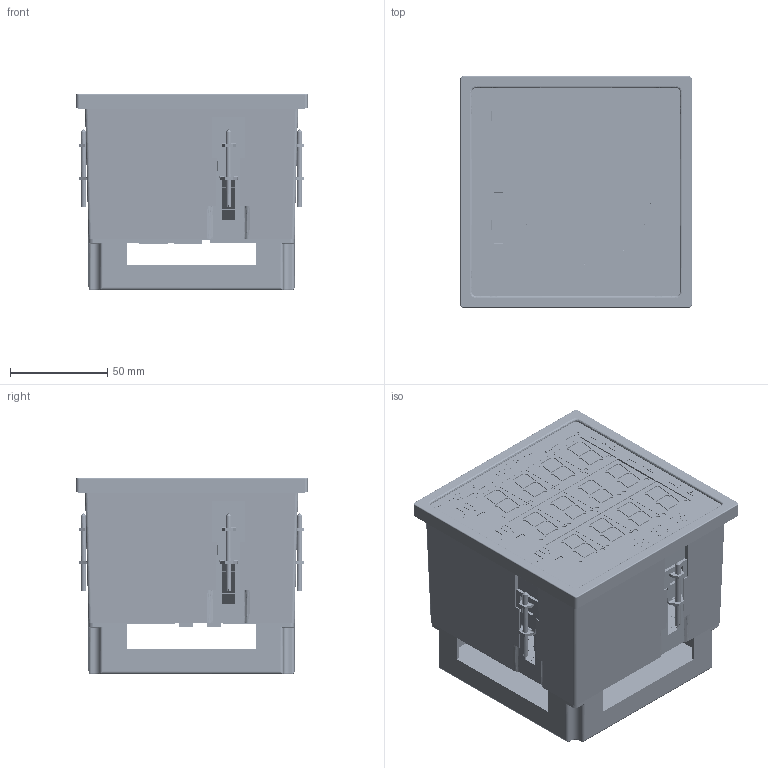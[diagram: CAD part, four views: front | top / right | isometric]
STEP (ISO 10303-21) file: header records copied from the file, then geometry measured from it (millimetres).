
FILE_DESCRIPTION (( 'STEP AP214' ), '1' );
FILE_NAME ('ñ9255tr_120x120x103.STEP', '2025-01-17T07:59:24', ( '' ), ( '' ), 'SwSTEP 2.0', 'SolidWorks 2021', '' );
FILE_SCHEMA (( 'AUTOMOTIVE_DESIGN' ));
Length unit declared in the file: millimetre
Products named in the file (67): 15EDGVC-3.5-sidewall; Êîïèÿ mark-FYS-8011^Êîïèÿ (7) Êîïèÿ indicator-FYS-8011_ÑáîðêàÖ9255ÒÐ_step; DG271R-5.0-2-x; Êîïèÿ 15EDGRC-3.5-06P^ÑáîðêàÖ9255ÒÐ; Êîïèÿ (10) Êîïèÿ indicator-FYS-8011^ÑáîðêàÖ9255ÒÐ_step; Çàäíÿÿ êðûøêà ÖÔ9285; Êîïèÿ 15EDGVC-3.5-sidewall^Êîïèÿ 15EDGRC-3.5-06P_ÑáîðêàÖ9255ÒÐ; Êîïèÿ 15EDGRC-3.5-01P^Êîïèÿ 15EDGRC-3.5-06P_ÑáîðêàÖ9255ÒÐ; blue-led-5_step; 3-input-label^ÑáîðêàÖ9255ÒÐ_step; border_for_body_elc_120x120x103; 櫻蠉錪6^DG271R-5.0-6-x_step; 15EDGRC-3.5-06P; Êîïèÿ mark-FYS-8011^Êîïèÿ Êîïèÿ indicator-FYS-8011_ÑáîðêàÖ9255ÒÐ_step; Êîïèÿ (7) Êîïèÿ indicator-FYS-8011^ÑáîðêàÖ9255ÒÐ_step; Êîïèÿ mark-FYS-8011^Êîïèÿ (11) Êîïèÿ indicator-FYS-8011_ÑáîðêàÖ9255ÒÐ_step; Êîïèÿ green-led-with-border^ÑáîðêàÖ9255ÒÐ_step; Êîïèÿ mark-FYS-8011^Êîïèÿ (8) Êîïèÿ indicator-FYS-8011_ÑáîðêàÖ9255ÒÐ_step; Êîïèÿ (9) Êîïèÿ indicator-FYS-8011^ÑáîðêàÖ9255ÒÐ_step; body_elc_120x120x103_step; Êîïèÿ 15EDGVC-3.5-sidewall^15EDGRC-3.5-04P; 櫻蠉錪2^DG271R-5.0-2-x; green-led-5_step; ñêîáà-2_step; DG271R-body_step; RS-485-label^ﾑ碚獰9255ﾒﾐ_step; 櫻蠉錪2^DG271R-5.0-6-x; Êîïèÿ mark-FYS-8011^Êîïèÿ (12) Êîïèÿ indicator-FYS-8011_ÑáîðêàÖ9255ÒÐ_step; Êîïèÿ (2) Êîïèÿ indicator-FYS-8011^ÑáîðêàÖ9255ÒÐ_step; Êîïèÿ mark-FYS-8011^Êîïèÿ (9) Êîïèÿ indicator-FYS-8011_ÑáîðêàÖ9255ÒÐ_step; 櫻蠉錪6^DG271R-5.0-2-x; Êîïèÿ mark-FYS-8011^Êîïèÿ (4) Êîïèÿ indicator-FYS-8011_ÑáîðêàÖ9255ÒÐ_step; 櫻蠉錪5^DG271R-5.0-2-x; Êîïèÿ orange-led-with-border^ÑáîðêàÖ9255ÒÐ_step; ñ9255tr_120x120x103; Êîïèÿ (8) Êîïèÿ indicator-FYS-8011^ÑáîðêàÖ9255ÒÐ_step; DG271R-body; Êîïèÿ ïåðåäíÿÿ_ïàíåëü^ÑáîðêàÖ9255ÒÐ_step; no-color-led-5; indicator-FYS-8011_step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
Assembly tree (122 placements, depth 3):
  Êîïèÿ mark-FYS-8011^Êîïèÿ (7) Êîïèÿ indicator-FYS-8011_ÑáîðêàÖ9255ÒÐ_step
  櫻蠉錪6^DG271R-5.0-6-x_step
  Êîïèÿ mark-FYS-8011^Êîïèÿ Êîïèÿ indicator-FYS-8011_ÑáîðêàÖ9255ÒÐ_step
  Êîïèÿ mark-FYS-8011^Êîïèÿ (11) Êîïèÿ indicator-FYS-8011_ÑáîðêàÖ9255ÒÐ_step
  Êîïèÿ mark-FYS-8011^Êîïèÿ (8) Êîïèÿ indicator-FYS-8011_ÑáîðêàÖ9255ÒÐ_step
Bounding box: 119 x 119 x 101.11 mm (x, y, z)
Volume: 196774.3 mm3; surface area: 226471 mm2
Topology: 295 solids, 295 shells, 9981 faces, 25679 edges, 16578 vertices
Faces by surface type: plane 6620, cylinder 2099, bspline 1014, cone 152, sphere 84, torus 12
Entity records: 238654 total; most frequent: CARTESIAN_POINT 88131, ORIENTED_EDGE 27532, DIRECTION 20962, EDGE_CURVE 13766, LINE 9460, VECTOR 9460, VERTEX_POINT 9008, EDGE_LOOP 5760
